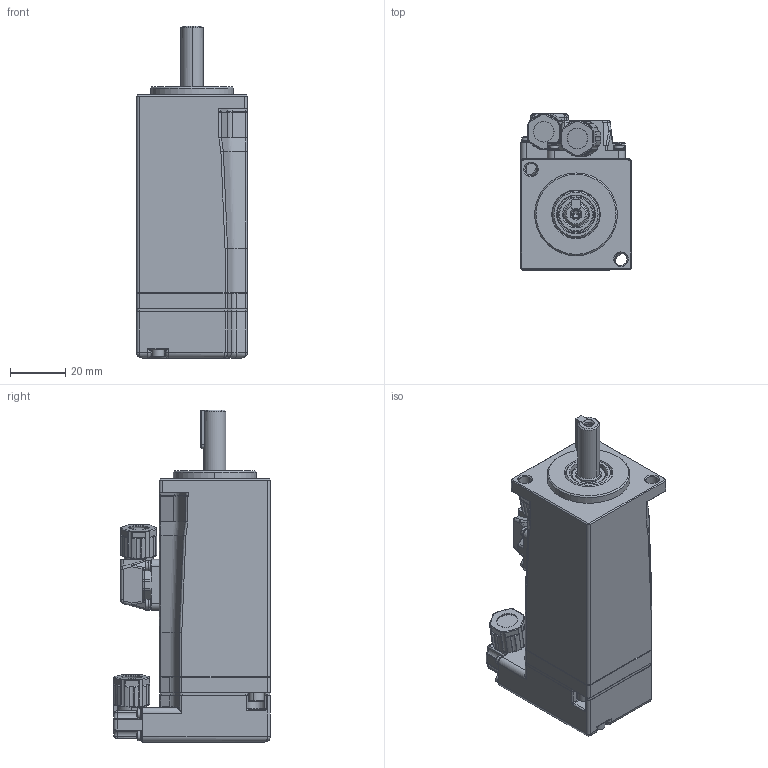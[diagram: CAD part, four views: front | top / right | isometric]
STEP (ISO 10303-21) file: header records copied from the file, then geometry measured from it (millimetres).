
FILE_DESCRIPTION (( 'STEP AP203' ), '1' );
FILE_NAME ('俋倛芞-100W-ACM1﹜ACM1S﹜ACM2-衄价陬.STEP', '2021-11-15T12:23:08', ( '' ), ( '' ), 'SwSTEP 2.0', 'SolidWorks 2020', '' );
FILE_SCHEMA (( 'CONFIG_CONTROL_DESIGN' ));
Length unit declared in the file: millimetre
Products named in the file (1): 俋倛芞-100W-ACM1﹜ACM1S﹜ACM2-衄价陬
Bounding box: 40.2 x 56.7 x 120.3 mm (x, y, z)
Volume: 159254.1 mm3; surface area: 24743.1 mm2
Topology: 8 solids, 21 shells, 1683 faces, 3988 edges, 2373 vertices
Faces by surface type: plane 688, cylinder 564, torus 205, bspline 107, cone 93, sphere 26
Entity records: 54956 total; most frequent: CARTESIAN_POINT 17041, DIRECTION 8002, ORIENTED_EDGE 7934, EDGE_CURVE 3967, AXIS2_PLACEMENT_3D 3121, VERTEX_POINT 2373, LINE 1760, VECTOR 1760
